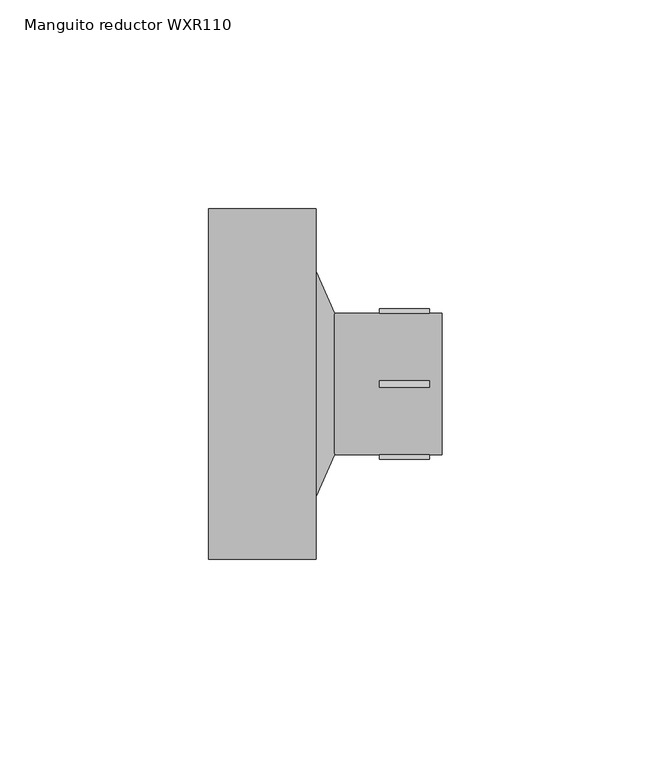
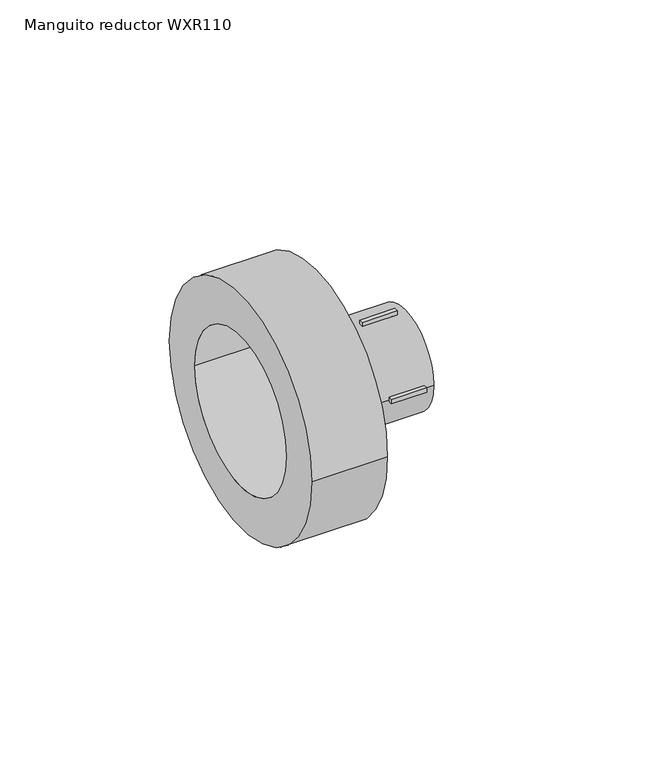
"""IFC4 building model written with IfcOpenShell, lengths in millimetres: pipe fitting geometry, EGB_VASEN_ PPR_Manguito reductor WXR110 : Manguito reductor WXR110."""

from ifc_helpers import new_model, si_unit, point, frame, origin, origin_2d, place, context, project, spatial, polyline, circle_curve, trimmed, segment, composite_curve, outline, extrude, source, transform, mapped, element, save
from ifc_brep_helpers import plane_surface, revolved_surface, advanced_brep


def manguito_reductor_wxr110_f3ae8f5f(model_context):
    return source(origin(), model_context, "Body", "SolidModel", [
        extrude(outline(polyline([(13.0, -0.75), (13.0, 0.75), (25.0, 0.75), (25.0, -0.75), (13.0, -0.75)])), frame((0.0, 0.0, 16.0), z_axis=(0.0, 0.0, 1.0), x_axis=(1.0, 0.0, 0.0)), (0.0, 0.0, 1.0), 2.0),
        extrude(outline(polyline([(13.0, -0.75), (13.0, 0.75), (25.0, 0.75), (25.0, -0.75), (13.0, -0.75)])), frame((0.0, 0.0, -18.0), z_axis=(0.0, 0.0, 1.0), x_axis=(1.0, 0.0, 0.0)), (0.0, 0.0, 1.0), 2.0),
        extrude(outline(polyline([(13.0, 16.0), (13.0, 18.0), (25.0, 18.0), (25.0, 16.0), (13.0, 16.0)])), frame((0.0, 0.0, -0.75), z_axis=(0.0, 0.0, 1.0), x_axis=(1.0, 0.0, 0.0)), (0.0, 0.0, 1.0), 1.5),
        extrude(outline(polyline([(13.0, -18.0), (13.0, -16.0), (25.0, -16.0), (25.0, -18.0), (13.0, -18.0)])), frame((0.0, 0.0, -0.75), z_axis=(0.0, 0.0, 1.0), x_axis=(1.0, 0.0, 0.0)), (0.0, 0.0, 1.0), 1.5),
        extrude(outline(composite_curve([segment(trimmed(circle_curve(origin_2d(), 17.0), [point((-17.0, 0.0))], [point((17.0, 0.0))], False, "CARTESIAN"), True, "CONTINUOUS"), segment(trimmed(circle_curve(origin_2d(), 17.0), [point((17.0, 0.0))], [point((-17.0, 0.0))], False, "CARTESIAN"), True, "CONTINUOUS")], self_intersect=False), holes=[composite_curve([segment(trimmed(circle_curve(origin_2d(), 12.5), [point((-12.5, 0.0))], [point((12.5, 0.0))], True, "CARTESIAN"), True, "CONTINUOUS"), segment(trimmed(circle_curve(origin_2d(), 12.5), [point((12.5, 0.0))], [point((-12.5, 0.0))], True, "CARTESIAN"), True, "CONTINUOUS")], self_intersect=False)]), frame((2.24, 0.0, 0.0), z_axis=(1.0, 0.0, 0.0), x_axis=(0.0, 1.0, 0.0)), (0.0, 0.0, 1.0), 25.76),
        extrude(outline(composite_curve([segment(trimmed(circle_curve(origin_2d(), 42.0), [point((-42.0, 0.0))], [point((42.0, 0.0))], False, "CARTESIAN"), True, "CONTINUOUS"), segment(trimmed(circle_curve(origin_2d(), 42.0), [point((42.0, 0.0))], [point((-42.0, 0.0))], False, "CARTESIAN"), True, "CONTINUOUS")], self_intersect=False), holes=[composite_curve([segment(trimmed(circle_curve(origin_2d(), 27.0), [point((-27.0, 0.0))], [point((27.0, 0.0))], True, "CARTESIAN"), True, "CONTINUOUS"), segment(trimmed(circle_curve(origin_2d(), 27.0), [point((27.0, 0.0))], [point((-27.0, 0.0))], True, "CARTESIAN"), True, "CONTINUOUS")], self_intersect=False)]), frame((-28.0, 0.0, 0.0), z_axis=(1.0, 0.0, 0.0), x_axis=(0.0, 1.0, 0.0)), (0.0, 0.0, 1.0), 25.76),
        advanced_brep(
        [(2.24, -17.0, 0.0), (2.24, 17.0, 0.0), (-2.24, -27.0, 0.0), (-2.24, 27.0, 0.0)],
        [
            (0, 1, circle_curve(frame((2.24, 0.0, 0.0), z_axis=(1.0, 0.0, 0.0), x_axis=(0.0, -1.0, 0.0)), 17.0)),
            (1, 0, circle_curve(frame((2.24, 0.0, 0.0), z_axis=(1.0, 0.0, 0.0), x_axis=(0.0, 1.0, 0.0)), 17.0)),
            (2, 3, circle_curve(frame((-2.24, 0.0, 0.0), z_axis=(-1.0, 0.0, 0.0), x_axis=(0.0, 1.0, 0.0)), 27.0)),
            (3, 2, circle_curve(frame((-2.24, 0.0, 0.0), z_axis=(-1.0, 0.0, 0.0), x_axis=(0.0, -1.0, 0.0)), 27.0)),
            (3, 1),
            (0, 2),
        ],
        [
            plane_surface(frame((2.24, 0.0, 0.0), z_axis=(1.0, 0.0, 0.0), x_axis=(0.0, 0.0, -1.0))),
            plane_surface(frame((-2.24, 0.0, 0.0), z_axis=(-1.0, 0.0, 0.0), x_axis=(0.0, 0.0, -1.0))),
            revolved_surface(polyline([(2.2399999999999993, -17.0, 0.0), (-2.24, -27.0, 0.0)]), (9.856, 0.0, 0.0), (-1.0, 0.0, 0.0)),
            revolved_surface(polyline([(2.2399999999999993, 17.0, 0.0), (-2.24, 27.0, 0.0)]), (9.856, 0.0, 0.0), (-1.0, 0.0, 0.0)),
        ],
        [
            (0, [[1, 2]]),
            (1, [[3, 4]]),
            (2, [[-4, 5, -1, 6]]),
            (3, [[-3, -6, -2, -5]]),
        ],
    ),
    ])


if __name__ == "__main__":
    model = new_model("IFC4")
    model_context = context("Model", 3, world=origin())
    ifc_project = project(units=[si_unit("LENGTHUNIT", "METRE", prefix="MILLI")], contexts=[model_context])
    site = spatial("IfcSite", under=ifc_project)
    building = spatial("IfcBuilding", under=site)
    placement = place(None, origin())
    manguito_reductor_wxr110_shape = manguito_reductor_wxr110_f3ae8f5f(model_context)
    element("IfcPipeFitting", 1, ObjectType="EGB_VASEN_ PPR_Manguito reductor WXR110 : Manguito reductor WXR110", at=placement, inside=building, context=model_context, shape_type="MappedRepresentation", body=[
        mapped(manguito_reductor_wxr110_shape, transform((0.0, 0.0, 0.0), x_axis=(1.0, 0.0, 0.0), y_axis=(0.0, 1.0, 0.0), z_axis=(0.0, 0.0, 1.0))),
    ])
    save(model, "model.ifc")
